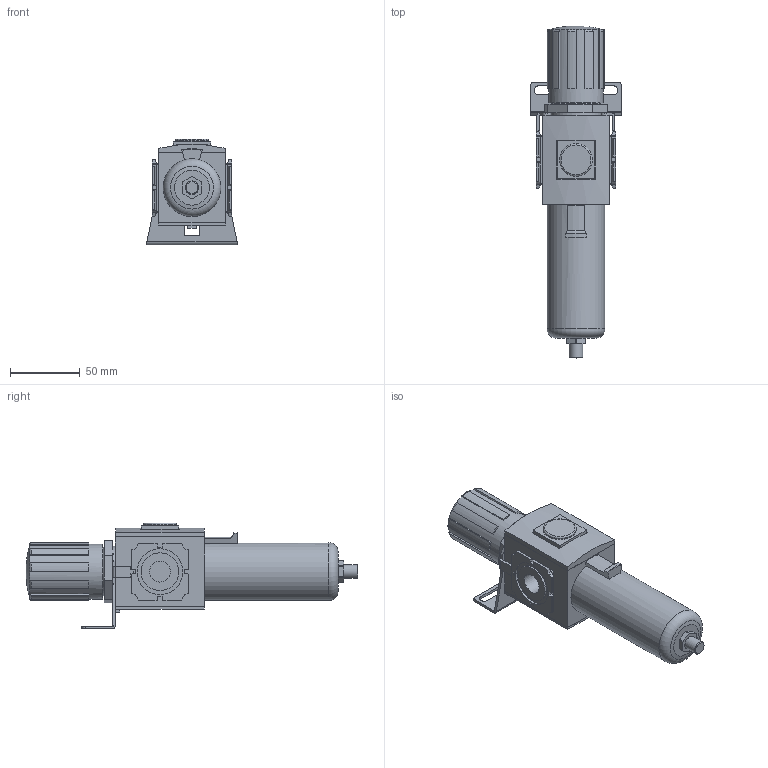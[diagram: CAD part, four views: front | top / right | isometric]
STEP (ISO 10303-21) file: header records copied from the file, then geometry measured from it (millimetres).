
FILE_DESCRIPTION( ( 'STEP AP214' ), '1' );
FILE_NAME( 'C:/Users/emc03072/Desktop/EAW/EAW3000-03DF2.stp', '2026-08-14T16:24:03', ( 'License CC BY-ND 4.0' ), ( 'CADENAS' ), ' ', 'PARTsolutions', ' ' );
FILE_SCHEMA( ( 'AUTOMOTIVE_DESIGN { 1 0 10303 214 1 1 1 1 }' ) );
Length unit declared in the file: millimetre
Products named in the file (2): EAW3000-03DF2; _EAW3000-03DF2-body
Assembly tree (1 placements, depth 2):
  EAW3000-03DF2
    _EAW3000-03DF2-body
Bounding box: 65 x 238.14 x 75.8 mm (x, y, z)
Volume: 400376.9 mm3; surface area: 52607.9 mm2
Topology: 1 solids, 2 shells, 329 faces, 912 edges, 604 vertices
Faces by surface type: plane 246, cylinder 62, torus 16, cone 4, sphere 1
Full cylindrical faces by diameter (mm): 9.726 x1, 14.95 x2, 23.5 x1, 27.06 x2, 32.94 x2, 36 x2, 39.26 x1, 41.322 x1
Entity records: 13062 total; most frequent: CARTESIAN_POINT 1836, ORIENTED_EDGE 1780, DIRECTION 1766, EDGE_CURVE 890, LINE 668, VECTOR 668, VERTEX_POINT 603, AXIS2_PLACEMENT_3D 549
